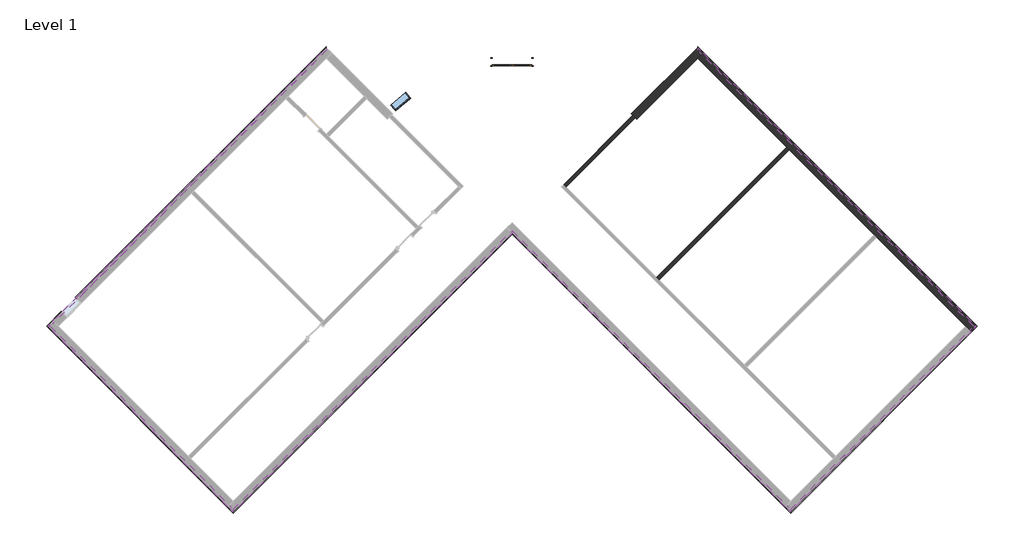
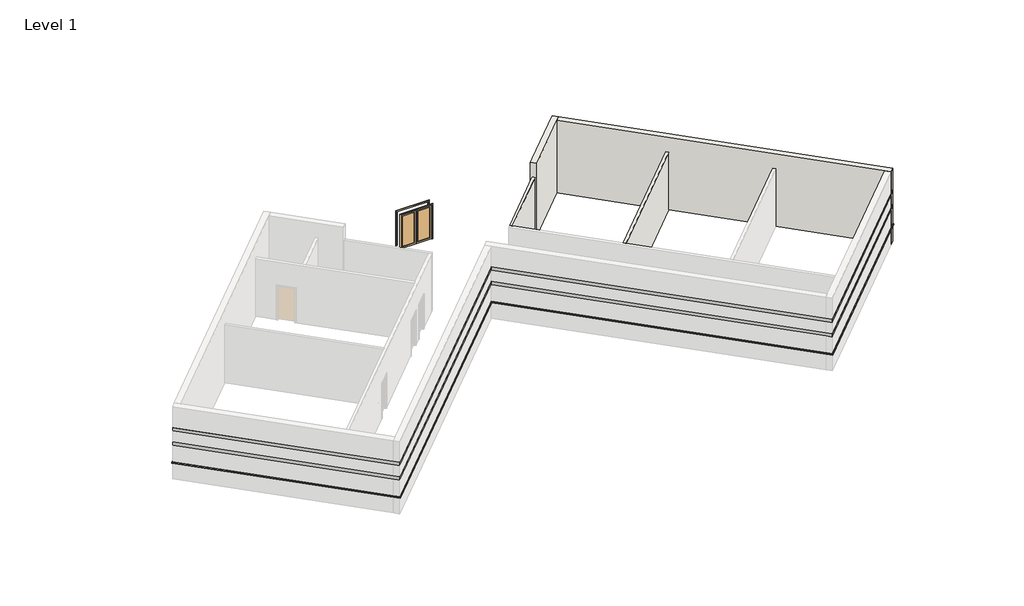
# One storey, part 2 of 2: 18 proxies, 4 walls, 1 door, 1 window.
"""IFC4 building model written with IfcOpenShell, lengths in millimetres."""

from ifc_helpers import new_model, si_unit, point, frame, frame_2d, origin, origin_with_axes, place, context, project, spatial, polyline, circle_curve, trimmed, segment, composite_curve, outline, extrude, faceted_brep, transform, mapped, element, save
from ifc_brep_helpers import plane_surface, cylinder_surface, revolved_surface, advanced_brep
from components import door_9e30bd7d, window_15c49d37

model = new_model("IFC4")

# Units and contexts
model_context = context("Model", 3, world=origin())
ifc_project = project(units=[si_unit("LENGTHUNIT", "METRE", prefix="MILLI")], contexts=[model_context])

# Site, building, storey
site = spatial("IfcSite", under=ifc_project)
building = spatial("IfcBuilding", under=site)
storey = spatial("IfcBuildingStorey", under=building, Name="Level 1", Elevation=0.0)

# Proxies
placement = place(None, origin())
element("IfcBuildingElementProxy", 1, Name="Wall Sweeps", at=placement, inside=storey, context=model_context, shape_type="Brep", body=[
    faceted_brep([(5753.0175119, 11443.3655905, 1085.85), (5753.0175119, 11573.5793042, 1085.85), (5753.0175119, 11622.9707129, 1041.4), (5753.0175119, 11622.9707129, 1016.0), (5753.0175119, 11443.3655905, 1016.0), (18554.3726125, -1357.9895101, 1085.85), (18554.3726125, -1357.9895101, 1016.0), (18733.9777349, -1357.9895101, 1016.0), (18733.9777349, -1357.9895101, 1041.4), (18684.5863263, -1357.9895101, 1085.85), (5937.1127624, 11259.27034, 1085.85), (5937.1127624, 11259.27034, 1016.0)], [[[0, 1, 2, 3, 4]], [[5, 6, 7, 8, 9]], [[1, 0, 10, 5, 9]], [[2, 1, 9, 8]], [[3, 2, 8, 7]], [[4, 3, 7, 6, 11]], [[0, 4, 11, 6, 5, 10]]]),
])
element("IfcBuildingElementProxy", 2, Name="Wall Sweeps", at=placement, inside=storey, context=model_context, shape_type="Brep", body=[
    faceted_brep([(5753.0175119, 11573.5793042, 2336.8), (5753.0175119, 11573.5793042, 2133.6), (5753.0175119, 11443.3655905, 2133.6), (5753.0175119, 11443.3655905, 2336.8), (18684.5863263, -1357.9895101, 2336.8), (18554.3726125, -1357.9895101, 2336.8), (18554.3726125, -1357.9895101, 2133.6), (18684.5863263, -1357.9895101, 2133.6), (6002.2196193, 11324.3771969, 2336.8), (6002.2196193, 11324.3771969, 2133.6), (5937.1127624, 11259.27034, 2133.6), (5937.1127624, 11259.27034, 2336.8)], [[[0, 1, 2, 3]], [[4, 5, 6, 7]], [[1, 0, 8, 4, 7, 9]], [[2, 1, 9, 7, 6, 10]], [[3, 2, 10, 6, 5, 11]], [[0, 3, 11, 5, 4, 8]]]),
])
element("IfcBuildingElementProxy", 3, Name="Wall Sweeps", at=placement, inside=storey, context=model_context, shape_type="Brep", body=[
    faceted_brep([(5753.0175119, 11573.5793042, 3251.2), (5753.0175119, 11573.5793042, 3048.0), (5753.0175119, 11443.3655905, 3048.0), (5753.0175119, 11443.3655905, 3251.2), (18684.5863263, -1357.9895101, 3251.2), (18554.3726125, -1357.9895101, 3251.2), (18554.3726125, -1357.9895101, 3048.0), (18684.5863263, -1357.9895101, 3048.0), (6002.2196193, 11324.3771969, 3251.2), (6002.2196193, 11324.3771969, 3048.0), (5937.1127624, 11259.27034, 3048.0), (5937.1127624, 11259.27034, 3251.2)], [[[0, 1, 2, 3]], [[4, 5, 6, 7]], [[1, 0, 8, 4, 7, 9]], [[2, 1, 9, 7, 6, 10]], [[3, 2, 10, 6, 5, 11]], [[0, 3, 11, 5, 4, 8]]]),
])
element("IfcBuildingElementProxy", 4, Name="Wall Sweeps", at=placement, inside=storey, context=model_context, shape_type="Brep", body=[
    faceted_brep([(18554.3726125, -1357.9895101, 1085.85), (18684.5863263, -1357.9895101, 1085.85), (18733.9777349, -1357.9895101, 1041.4), (18733.9777349, -1357.9895101, 1016.0), (18554.3726125, -1357.9895101, 1016.0), (10063.54045, -9848.8216726, 1085.85), (10063.54045, -9848.8216726, 1016.0), (10063.54045, -10028.426795, 1016.0), (10063.54045, -10028.426795, 1041.4), (10063.54045, -9979.0353863, 1085.85), (18370.277362, -1542.0847606, 1085.85), (18370.277362, -1542.0847606, 1016.0)], [[[0, 1, 2, 3, 4]], [[5, 6, 7, 8, 9]], [[1, 0, 10, 5, 9]], [[2, 1, 9, 8]], [[3, 2, 8, 7]], [[4, 3, 7, 6, 11]], [[0, 4, 11, 6, 5, 10]]]),
])
element("IfcBuildingElementProxy", 5, Name="Wall Sweeps", at=placement, inside=storey, context=model_context, shape_type="Brep", body=[
    faceted_brep([(18684.5863263, -1357.9895101, 2336.8), (18684.5863263, -1357.9895101, 2133.6), (18554.3726125, -1357.9895101, 2133.6), (18554.3726125, -1357.9895101, 2336.8), (10063.54045, -9979.0353863, 2336.8), (10063.54045, -9848.8216726, 2336.8), (10063.54045, -9848.8216726, 2133.6), (10063.54045, -9979.0353863, 2133.6), (18435.3842189, -1607.1916175, 2336.8), (18435.3842189, -1607.1916175, 2133.6), (18370.277362, -1542.0847606, 2133.6), (18370.277362, -1542.0847606, 2336.8)], [[[0, 1, 2, 3]], [[4, 5, 6, 7]], [[1, 0, 8, 4, 7, 9]], [[2, 1, 9, 7, 6, 10]], [[3, 2, 10, 6, 5, 11]], [[0, 3, 11, 5, 4, 8]]]),
])
element("IfcBuildingElementProxy", 6, Name="Wall Sweeps", at=placement, inside=storey, context=model_context, shape_type="Brep", body=[
    faceted_brep([(18684.5863263, -1357.9895101, 3251.2), (18684.5863263, -1357.9895101, 3048.0), (18554.3726125, -1357.9895101, 3048.0), (18554.3726125, -1357.9895101, 3251.2), (10063.54045, -9979.0353863, 3251.2), (10063.54045, -9848.8216726, 3251.2), (10063.54045, -9848.8216726, 3048.0), (10063.54045, -9979.0353863, 3048.0), (18435.3842189, -1607.1916175, 3251.2), (18435.3842189, -1607.1916175, 3048.0), (18370.277362, -1542.0847606, 3048.0), (18370.277362, -1542.0847606, 3251.2)], [[[0, 1, 2, 3]], [[4, 5, 6, 7]], [[1, 0, 8, 4, 7, 9]], [[2, 1, 9, 7, 6, 10]], [[3, 2, 10, 6, 5, 11]], [[0, 3, 11, 5, 4, 8]]]),
])
element("IfcBuildingElementProxy", 7, Name="Wall Sweeps", at=placement, inside=storey, context=model_context, shape_type="Brep", body=[
    faceted_brep([(10063.54045, -9848.8216726, 1085.85), (10063.54045, -9979.0353863, 1085.85), (10063.54045, -10028.426795, 1041.4), (10063.54045, -10028.426795, 1016.0), (10063.54045, -9848.8216726, 1016.0), (-2868.0283643, 3082.7471418, 1085.85), (-2868.0283643, 3082.7471418, 1016.0), (-2868.0283643, 2903.1420194, 1016.0), (-2868.0283643, 2903.1420194, 1041.4), (-2868.0283643, 2952.533428, 1085.85), (9879.4451996, -9664.7264221, 1085.85), (9879.4451996, -9664.7264221, 1016.0)], [[[0, 1, 2, 3, 4]], [[5, 6, 7, 8, 9]], [[1, 0, 10, 5, 9]], [[2, 1, 9, 8]], [[3, 2, 8, 7]], [[4, 3, 7, 6, 11]], [[0, 4, 11, 6, 5, 10]]]),
])
element("IfcBuildingElementProxy", 8, Name="Wall Sweeps", at=placement, inside=storey, context=model_context, shape_type="Brep", body=[
    faceted_brep([(10063.54045, -9979.0353863, 2336.8), (10063.54045, -9979.0353863, 2133.6), (10063.54045, -9848.8216726, 2133.6), (10063.54045, -9848.8216726, 2336.8), (-2868.0283643, 2952.533428, 2336.8), (-2868.0283643, 3082.7471418, 2336.8), (-2868.0283643, 3082.7471418, 2133.6), (-2868.0283643, 2952.533428, 2133.6), (9814.3383427, -9729.833279, 2336.8), (9814.3383427, -9729.833279, 2133.6), (9879.4451996, -9664.7264221, 2133.6), (9879.4451996, -9664.7264221, 2336.8)], [[[0, 1, 2, 3]], [[4, 5, 6, 7]], [[1, 0, 8, 4, 7, 9]], [[2, 1, 9, 7, 6, 10]], [[3, 2, 10, 6, 5, 11]], [[0, 3, 11, 5, 4, 8]]]),
])
element("IfcBuildingElementProxy", 9, Name="Wall Sweeps", at=placement, inside=storey, context=model_context, shape_type="Brep", body=[
    faceted_brep([(10063.54045, -9979.0353863, 3251.2), (10063.54045, -9979.0353863, 3048.0), (10063.54045, -9848.8216726, 3048.0), (10063.54045, -9848.8216726, 3251.2), (-2868.0283643, 2952.533428, 3251.2), (-2868.0283643, 3082.7471418, 3251.2), (-2868.0283643, 3082.7471418, 3048.0), (-2868.0283643, 2952.533428, 3048.0), (9814.3383427, -9729.833279, 3251.2), (9814.3383427, -9729.833279, 3048.0), (9879.4451996, -9664.7264221, 3048.0), (9879.4451996, -9664.7264221, 3251.2)], [[[0, 1, 2, 3]], [[4, 5, 6, 7]], [[1, 0, 8, 4, 7, 9]], [[2, 1, 9, 7, 6, 10]], [[3, 2, 10, 6, 5, 11]], [[0, 3, 11, 5, 4, 8]]]),
])
element("IfcBuildingElementProxy", 10, Name="Wall Sweeps", at=placement, inside=storey, context=model_context, shape_type="Brep", body=[
    faceted_brep([(-2868.0283643, 3082.7471418, 1085.85), (-2868.0283643, 2952.533428, 1085.85), (-2868.0283643, 2903.1420194, 1041.4), (-2868.0283643, 2903.1420194, 1016.0), (-2868.0283643, 3082.7471418, 1016.0), (-15799.5971786, -9848.8216726, 1085.85), (-15799.5971786, -9848.8216726, 1016.0), (-15799.5971786, -10028.426795, 1016.0), (-15799.5971786, -10028.426795, 1041.4), (-15799.5971786, -9979.0353863, 1085.85), (-2933.1352212, 3017.6402849, 1085.85), (-2933.1352212, 3017.6402849, 1016.0)], [[[0, 1, 2, 3, 4]], [[5, 6, 7, 8, 9]], [[1, 0, 10, 5, 9]], [[2, 1, 9, 8]], [[3, 2, 8, 7]], [[4, 3, 7, 6, 11]], [[0, 4, 11, 6, 5, 10]]]),
])
element("IfcBuildingElementProxy", 11, Name="Wall Sweeps", at=placement, inside=storey, context=model_context, shape_type="Brep", body=[
    faceted_brep([(-2868.0283643, 2952.533428, 2336.8), (-2868.0283643, 2952.533428, 2133.6), (-2868.0283643, 3082.7471418, 2133.6), (-2868.0283643, 3082.7471418, 2336.8), (-15799.5971786, -9979.0353863, 2336.8), (-15799.5971786, -9848.8216726, 2336.8), (-15799.5971786, -9848.8216726, 2133.6), (-15799.5971786, -9979.0353863, 2133.6), (-2933.1352212, 3017.6402849, 2133.6), (-2933.1352212, 3017.6402849, 2336.8)], [[[0, 1, 2, 3]], [[4, 5, 6, 7]], [[1, 0, 4, 7]], [[2, 1, 7, 6, 8]], [[3, 2, 8, 6, 5, 9]], [[0, 3, 9, 5, 4]]]),
])
element("IfcBuildingElementProxy", 12, Name="Wall Sweeps", at=placement, inside=storey, context=model_context, shape_type="Brep", body=[
    faceted_brep([(-2868.0283643, 2952.533428, 3251.2), (-2868.0283643, 2952.533428, 3048.0), (-2868.0283643, 3082.7471418, 3048.0), (-2868.0283643, 3082.7471418, 3251.2), (-15799.5971786, -9979.0353863, 3251.2), (-15799.5971786, -9848.8216726, 3251.2), (-15799.5971786, -9848.8216726, 3048.0), (-15799.5971786, -9979.0353863, 3048.0), (-2933.1352212, 3017.6402849, 3048.0), (-2933.1352212, 3017.6402849, 3251.2)], [[[0, 1, 2, 3]], [[4, 5, 6, 7]], [[1, 0, 4, 7]], [[2, 1, 7, 6, 8]], [[3, 2, 8, 6, 5, 9]], [[0, 3, 9, 5, 4]]]),
])
element("IfcBuildingElementProxy", 13, Name="Wall Sweeps", at=placement, inside=storey, context=model_context, shape_type="Brep", body=[
    faceted_brep([(-15799.5971786, -9848.8216726, 1085.85), (-15799.5971786, -9979.0353863, 1085.85), (-15799.5971786, -10028.426795, 1041.4), (-15799.5971786, -10028.426795, 1016.0), (-15799.5971786, -9848.8216726, 1016.0), (-24290.4293411, -1357.9895101, 1085.85), (-24290.4293411, -1357.9895101, 1016.0), (-24470.0344635, -1357.9895101, 1016.0), (-24470.0344635, -1357.9895101, 1041.4), (-24420.6430549, -1357.9895101, 1085.85), (-15983.6924291, -9664.7264221, 1085.85), (-15983.6924291, -9664.7264221, 1016.0)], [[[0, 1, 2, 3, 4]], [[5, 6, 7, 8, 9]], [[1, 0, 10, 5, 9]], [[2, 1, 9, 8]], [[3, 2, 8, 7]], [[4, 3, 7, 6, 11]], [[0, 4, 11, 6, 5, 10]]]),
])
element("IfcBuildingElementProxy", 14, Name="Wall Sweeps", at=placement, inside=storey, context=model_context, shape_type="Brep", body=[
    faceted_brep([(-15799.5971786, -9979.0353863, 2336.8), (-15799.5971786, -9979.0353863, 2133.6), (-15799.5971786, -9848.8216726, 2133.6), (-15799.5971786, -9848.8216726, 2336.8), (-24420.6430549, -1357.9895101, 2336.8), (-24290.4293411, -1357.9895101, 2336.8), (-24290.4293411, -1357.9895101, 2133.6), (-24420.6430549, -1357.9895101, 2133.6), (-16048.799286, -9729.833279, 2336.8), (-16048.799286, -9729.833279, 2133.6), (-15983.6924291, -9664.7264221, 2133.6), (-15983.6924291, -9664.7264221, 2336.8)], [[[0, 1, 2, 3]], [[4, 5, 6, 7]], [[1, 0, 8, 4, 7, 9]], [[2, 1, 9, 7, 6, 10]], [[3, 2, 10, 6, 5, 11]], [[0, 3, 11, 5, 4, 8]]]),
])
element("IfcBuildingElementProxy", 15, Name="Wall Sweeps", at=placement, inside=storey, context=model_context, shape_type="Brep", body=[
    faceted_brep([(-15799.5971786, -9979.0353863, 3251.2), (-15799.5971786, -9979.0353863, 3048.0), (-15799.5971786, -9848.8216726, 3048.0), (-15799.5971786, -9848.8216726, 3251.2), (-24420.6430549, -1357.9895101, 3251.2), (-24290.4293411, -1357.9895101, 3251.2), (-24290.4293411, -1357.9895101, 3048.0), (-24420.6430549, -1357.9895101, 3048.0), (-16048.799286, -9729.833279, 3251.2), (-16048.799286, -9729.833279, 3048.0), (-15983.6924291, -9664.7264221, 3048.0), (-15983.6924291, -9664.7264221, 3251.2)], [[[0, 1, 2, 3]], [[4, 5, 6, 7]], [[1, 0, 8, 4, 7, 9]], [[2, 1, 9, 7, 6, 10]], [[3, 2, 10, 6, 5, 11]], [[0, 3, 11, 5, 4, 8]]]),
])
element("IfcBuildingElementProxy", 16, Name="Wall Sweeps", at=placement, inside=storey, context=model_context, shape_type="Brep", body=[
    faceted_brep([(-24290.4293411, -1357.9895101, 1085.85), (-24420.6430549, -1357.9895101, 1085.85), (-24470.0344635, -1357.9895101, 1041.4), (-24470.0344635, -1357.9895101, 1016.0), (-24290.4293411, -1357.9895101, 1016.0), (-23692.119777, -759.679946, 1085.85), (-23692.119777, -759.679946, 1016.0), (-23757.2266339, -694.5730891, 1016.0), (-23781.9223383, -669.8773848, 1016.0), (-23781.9223383, -669.8773848, 1041.4), (-23757.2266339, -694.5730891, 1085.85), (-24106.3340906, -1173.8942596, 1085.85), (-24106.3340906, -1173.8942596, 1016.0)], [[[0, 1, 2, 3, 4]], [[5, 6, 7, 8, 9, 10]], [[1, 0, 11, 5, 10]], [[2, 1, 10, 9]], [[3, 2, 9, 8]], [[4, 3, 8, 7, 6, 12]], [[0, 4, 12, 6, 5, 11]]]),
    faceted_brep([(-23045.5413363, -113.1015053, 1085.85), (-23110.6481932, -47.9946484, 1085.85), (-23135.3438975, -23.2989441, 1041.4), (-23135.3438975, -23.2989441, 1016.0), (-23110.6481932, -47.9946484, 1016.0), (-23045.5413363, -113.1015053, 1016.0), (-11489.0742405, 11443.3655905, 1085.85), (-11489.0742405, 11443.3655905, 1016.0), (-11489.0742405, 11622.9707129, 1016.0), (-11489.0742405, 11622.9707129, 1041.4), (-11489.0742405, 11573.5793042, 1085.85)], [[[0, 1, 2, 3, 4, 5]], [[6, 7, 8, 9, 10]], [[1, 0, 6, 10]], [[2, 1, 10, 9]], [[3, 2, 9, 8]], [[5, 4, 3, 8, 7]], [[0, 5, 7, 6]]]),
])
element("IfcBuildingElementProxy", 17, Name="Wall Sweeps", at=placement, inside=storey, context=model_context, shape_type="Brep", body=[
    faceted_brep([(-24420.6430549, -1357.9895101, 2336.8), (-24420.6430549, -1357.9895101, 2133.6), (-24290.4293411, -1357.9895101, 2133.6), (-24290.4293411, -1357.9895101, 2336.8), (-23757.2266339, -694.5730891, 2336.8), (-23692.119777, -759.679946, 2336.8), (-23692.119777, -759.679946, 2133.6), (-23757.2266339, -694.5730891, 2133.6), (-24171.4409475, -1108.7874027, 2336.8), (-24171.4409475, -1108.7874027, 2133.6), (-24106.3340906, -1173.8942596, 2133.6), (-24106.3340906, -1173.8942596, 2336.8)], [[[0, 1, 2, 3]], [[4, 5, 6, 7]], [[1, 0, 8, 4, 7, 9]], [[2, 1, 9, 7, 6, 10]], [[3, 2, 10, 6, 5, 11]], [[0, 3, 11, 5, 4, 8]]]),
    faceted_brep([(-23110.6481932, -47.9946484, 2336.8), (-23110.6481932, -47.9946484, 2133.6), (-23045.5413363, -113.1015053, 2133.6), (-23045.5413363, -113.1015053, 2336.8), (-11489.0742405, 11573.5793042, 2336.8), (-11489.0742405, 11443.3655905, 2336.8), (-11489.0742405, 11443.3655905, 2133.6), (-11489.0742405, 11573.5793042, 2133.6)], [[[0, 1, 2, 3]], [[4, 5, 6, 7]], [[1, 0, 4, 7]], [[2, 1, 7, 6]], [[3, 2, 6, 5]], [[0, 3, 5, 4]]]),
])
element("IfcBuildingElementProxy", 18, Name="Wall Sweeps", at=placement, inside=storey, context=model_context, shape_type="Brep", body=[
    faceted_brep([(-24420.6430549, -1357.9895101, 3251.2), (-24420.6430549, -1357.9895101, 3048.0), (-24290.4293411, -1357.9895101, 3048.0), (-24290.4293411, -1357.9895101, 3251.2), (-11489.0742405, 11573.5793042, 3251.2), (-11489.0742405, 11443.3655905, 3251.2), (-11489.0742405, 11443.3655905, 3048.0), (-11489.0742405, 11573.5793042, 3048.0), (-24171.4409475, -1108.7874027, 3251.2), (-24171.4409475, -1108.7874027, 3048.0), (-24106.3340906, -1173.8942596, 3048.0), (-24106.3340906, -1173.8942596, 3251.2)], [[[0, 1, 2, 3]], [[4, 5, 6, 7]], [[1, 0, 8, 4, 7, 9]], [[2, 1, 9, 7, 6, 10]], [[3, 2, 10, 6, 5, 11]], [[0, 3, 11, 5, 4, 8]]]),
])

# Door
door_shape = door_9e30bd7d(model_context)
element("IfcDoor", 19, ObjectType="Door-Double-Glass : 72\" x 84\"", at=placement, inside=storey, context=model_context, shape_type="MappedRepresentation", body=[
    mapped(door_shape, transform((-2868.7605421, 10907.9529704, 0.0), x_axis=(-0.9999999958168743, -9.146721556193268e-05, 0.0), y_axis=(9.146721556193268e-05, -0.9999999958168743, 0.0), z_axis=(0.0, 0.0, 1.0))),
])

# Walls
element("IfcWall", 20, ObjectType="Exterior - Split Face and CMU on Mtl. Stud", at=placement, inside=storey, context=model_context, shape_type="AdvancedBrep", body=[
    advanced_brep(
    [(2921.9555443, 8244.1131219, 0.0), (5753.0175119, 11075.1750895, 0.0), (6002.2196193, 11324.3771969, 0.0), (6002.2196193, 11324.3771969, 1016.0), (5937.1127624, 11259.27034, 1016.0), (5937.1127624, 11259.27034, 1085.85), (6002.2196193, 11324.3771969, 1085.85), (6002.2196193, 11324.3771969, 2133.6), (5937.1127624, 11259.27034, 2133.6), (5937.1127624, 11259.27034, 2336.8), (6002.2196193, 11324.3771969, 2336.8), (6002.2196193, 11324.3771969, 3048.0), (5937.1127624, 11259.27034, 3048.0), (5937.1127624, 11259.27034, 3251.2), (6002.2196193, 11324.3771969, 3251.2), (6002.2196193, 11324.3771969, 4572.0), (5753.0175119, 11075.1750895, 4572.0), (2921.9555443, 8244.1131219, 4572.0), (2677.2250436, 8497.7868359, 4572.0), (2926.4294954, 8746.9912878, 4572.0), (5753.0175119, 11573.5793042, 4572.0), (5753.0175119, 11573.5793042, 3251.2), (2926.4294954, 8746.9912878, 3251.2), (2861.3220456, 8681.8838379, 3251.2), (2861.3220456, 8681.8838379, 3048.0), (2926.4294954, 8746.9912878, 3048.0), (5753.0175119, 11573.5793042, 3048.0), (5753.0175119, 11573.5793042, 2336.8), (2926.4294954, 8746.9912878, 2336.8), (2861.3220456, 8681.8838379, 2336.8), (2861.3220456, 8681.8838379, 2133.6), (2926.4294954, 8746.9912878, 2133.6), (5753.0175119, 11573.5793042, 2133.6), (5753.0175119, 11573.5793042, 1085.85), (2926.4294954, 8746.9912878, 1085.85), (2861.3220456, 8681.8838379, 1085.85), (2861.3220456, 8681.8838379, 1016.0), (2926.4294954, 8746.9912878, 1016.0), (5753.0175119, 11573.5793042, 1016.0), (5753.0175119, 11573.5793042, 0.0), (2926.4294954, 8746.9912878, 0.0), (2677.2250436, 8497.7868359, 0.0), (5818.1243688, 11508.4724474, 0.0), (2742.2400511, 8432.5881297, 0.0), (2746.695582, 8428.0638276, 0.0), (2854.7283421, 8316.0840715, 0.0), (5753.0175119, 11443.3655905, 1085.85), (2926.3399919, 8616.6880705, 1085.85), (2926.3399919, 8616.6880705, 1016.0), (5753.0175119, 11443.3655905, 1016.0), (2926.3399919, 8616.6880705, 2133.6), (5753.0175119, 11443.3655905, 2133.6), (2926.3399919, 8616.6880705, 2336.8), (5753.0175119, 11443.3655905, 2336.8), (2926.3399919, 8616.6880705, 3048.0), (5753.0175119, 11443.3655905, 3048.0), (2926.3399919, 8616.6880705, 3251.2), (5753.0175119, 11443.3655905, 3251.2)],
    [
        (0, 1),
        (1, 2),
        (2, 3),
        (3, 4),
        (4, 5),
        (5, 6),
        (6, 7),
        (7, 8),
        (8, 9),
        (9, 10),
        (10, 11),
        (11, 12),
        (12, 13),
        (13, 14),
        (14, 15),
        (15, 16),
        (16, 17),
        (17, 0),
        (18, 19),
        (19, 20),
        (20, 21),
        (21, 22),
        (22, 23),
        (23, 24),
        (24, 25),
        (25, 26),
        (26, 27),
        (27, 28),
        (28, 29),
        (29, 30),
        (30, 31),
        (31, 32),
        (32, 33),
        (33, 34),
        (34, 35),
        (35, 36),
        (36, 37),
        (37, 38),
        (38, 39),
        (39, 40),
        (40, 41),
        (41, 18),
        (15, 20),
        (18, 17, circle_curve(frame((-2868.0283643, 2903.1420194, 4572.0), z_axis=(0.0, 0.0, -1.0), x_axis=(1.0, 0.0, 0.0)), 7877.175)),
        (14, 21),
        (2, 42),
        (42, 39),
        (38, 3),
        (6, 33),
        (32, 7),
        (10, 27),
        (26, 11),
        (41, 43, circle_curve(frame((-2868.0283643, 2903.1420194, 0.0), z_axis=(0.0, 0.0, -1.0), x_axis=(1.0, 0.0, 0.0)), 7877.175)),
        (43, 44, circle_curve(frame((-2868.0283643, 2903.1420194, 0.0), z_axis=(0.0, 0.0, -1.0), x_axis=(1.0, 0.0, 0.0)), 7877.175)),
        (44, 45, circle_curve(frame((-2868.0283643, 2903.1420194, 0.0), z_axis=(0.0, 0.0, -1.0), x_axis=(1.0, 0.0, 0.0)), 7877.175)),
        (45, 0, circle_curve(frame((-2868.0283643, 2903.1420194, 0.0), z_axis=(0.0, 0.0, -1.0), x_axis=(1.0, 0.0, 0.0)), 7877.175)),
        (43, 42),
        (46, 47),
        (47, 35, circle_curve(frame((-2868.0283643, 2903.1420194, 1085.85), z_axis=(0.0, 0.0, 1.0), x_axis=(-0.7040995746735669, 0.7101012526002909, 0.0)), 8137.525)),
        (5, 46),
        (48, 49),
        (49, 4),
        (36, 48, circle_curve(frame((-2868.0283643, 2903.1420194, 1016.0), z_axis=(0.0, 0.0, -1.0), x_axis=(-0.7040995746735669, 0.7101012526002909, 0.0)), 8137.525)),
        (47, 48),
        (46, 49),
        (50, 51),
        (51, 8),
        (30, 50, circle_curve(frame((-2868.0283643, 2903.1420194, 2133.6), z_axis=(0.0, 0.0, -1.0), x_axis=(-0.7040995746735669, 0.7101012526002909, 0.0)), 8137.525)),
        (52, 50),
        (29, 52, circle_curve(frame((-2868.0283643, 2903.1420194, 2336.8), z_axis=(0.0, 0.0, -1.0), x_axis=(-0.7040995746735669, 0.7101012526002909, 0.0)), 8137.525)),
        (53, 52),
        (9, 53),
        (53, 51),
        (54, 55),
        (55, 12),
        (24, 54, circle_curve(frame((-2868.0283643, 2903.1420194, 3048.0), z_axis=(0.0, 0.0, -1.0), x_axis=(-0.7040995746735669, 0.7101012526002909, 0.0)), 8137.525)),
        (56, 54),
        (23, 56, circle_curve(frame((-2868.0283643, 2903.1420194, 3251.2), z_axis=(0.0, 0.0, -1.0), x_axis=(-0.7040995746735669, 0.7101012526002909, 0.0)), 8137.525)),
        (57, 56),
        (13, 57),
        (57, 55),
    ],
    [
        plane_surface(frame((2984.8535626, 8307.0111402, 0.0), z_axis=(0.707106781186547, -0.7071067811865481, 0.0), x_axis=(0.7071067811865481, 0.707106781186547, 0.0))),
        plane_surface(frame((2735.6514552, 8556.2132476, 0.0), z_axis=(-0.707106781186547, 0.7071067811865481, 0.0), x_axis=(-0.7071067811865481, -0.707106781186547, 0.0))),
        plane_surface(frame((5877.6185656, 11199.7761432, 4572.0), z_axis=(0.0, 0.0, 1.0), x_axis=(-0.707106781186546, 0.7071067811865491, 0.0))),
        plane_surface(frame((5753.0175119, 11573.5793042, 0.0), z_axis=(0.7071067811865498, 0.7071067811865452, 0.0), x_axis=(-0.7071067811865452, 0.7071067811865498, 0.0))),
        revolved_surface(polyline([(5009.146635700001, 2903.1420194, 0.0), (5009.146635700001, 2903.1420194, 4572.0)]), (-2868.0283643, 2903.1420194, 0.0), (0.0, 0.0, -1.0)),
        plane_surface(frame((3050.2065213, 8372.3640989, 0.0), z_axis=(0.0, 0.0, -1.0000000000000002), x_axis=(-0.7071067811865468, 0.7071067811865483, 0.0))),
        plane_surface(frame((0.0, 0.0, 0.0), z_axis=(0.0, 0.0, -1.0), x_axis=(1.0, 0.0, 0.0))),
        plane_surface(frame((-2868.0283643, 2903.1420194, 1085.85), z_axis=(0.0, 0.0, -1.0), x_axis=(-0.7040995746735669, 0.7101012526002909, 0.0))),
        plane_surface(frame((-2868.0283643, 2903.1420194, 1016.0), z_axis=(0.0, 0.0, 1.0), x_axis=(-0.7040995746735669, 0.7101012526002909, 0.0))),
        cylinder_surface(frame((-2868.0283643, 2903.1420194, 1016.0), z_axis=(0.0, 0.0, -1.0), x_axis=(-0.7040995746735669, 0.7101012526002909, 0.0)), 8137.525),
        plane_surface(frame((2926.3399919, 8616.6880705, 1016.0), z_axis=(-0.7071067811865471, 0.707106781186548, 0.0), x_axis=(0.707106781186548, 0.7071067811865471, 0.0))),
        plane_surface(frame((5753.0175119, 11443.3655905, 1016.0), z_axis=(0.70710678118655, 0.7071067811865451, 0.0), x_axis=(0.7071067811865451, -0.70710678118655, 0.0))),
        plane_surface(frame((-2868.0283643, 2903.1420194, 2133.6), z_axis=(0.0, 0.0, 1.0), x_axis=(-0.7040995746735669, 0.7101012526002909, 0.0))),
        cylinder_surface(frame((-2868.0283643, 2903.1420194, 2133.6), z_axis=(0.0, 0.0, -1.0), x_axis=(-0.7040995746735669, 0.7101012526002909, 0.0)), 8137.525),
        plane_surface(frame((-2868.0283643, 2903.1420194, 2336.8), z_axis=(0.0, 0.0, -1.0), x_axis=(-0.7040995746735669, 0.7101012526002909, 0.0))),
        plane_surface(frame((2926.3399919, 8616.6880705, 2133.6), z_axis=(-0.7071067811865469, 0.7071067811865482, 0.0), x_axis=(0.7071067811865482, 0.7071067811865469, 0.0))),
        plane_surface(frame((5753.0175119, 11443.3655905, 2133.6), z_axis=(0.7071067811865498, 0.7071067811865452, 0.0), x_axis=(0.7071067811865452, -0.7071067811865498, 0.0))),
        plane_surface(frame((-2868.0283643, 2903.1420194, 3048.0), z_axis=(0.0, 0.0, 1.0), x_axis=(-0.7040995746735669, 0.7101012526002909, 0.0))),
        cylinder_surface(frame((-2868.0283643, 2903.1420194, 3048.0), z_axis=(0.0, 0.0, -1.0), x_axis=(-0.7040995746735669, 0.7101012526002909, 0.0)), 8137.525),
        plane_surface(frame((-2868.0283643, 2903.1420194, 3251.2), z_axis=(0.0, 0.0, -1.0), x_axis=(-0.7040995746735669, 0.7101012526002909, 0.0))),
        plane_surface(frame((2926.3399919, 8616.6880705, 3048.0), z_axis=(-0.7071067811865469, 0.7071067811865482, 0.0), x_axis=(0.7071067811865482, 0.7071067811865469, 0.0))),
        plane_surface(frame((5753.0175119, 11443.3655905, 3048.0), z_axis=(0.7071067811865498, 0.7071067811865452, 0.0), x_axis=(0.7071067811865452, -0.7071067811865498, 0.0))),
    ],
    [
        (0, [[1, 2, 3, 4, 5, 6, 7, 8, 9, 10, 11, 12, 13, 14, 15, 16, 17, 18]]),
        (1, [[19, 20, 21, 22, 23, 24, 25, 26, 27, 28, 29, 30, 31, 32, 33, 34, 35, 36, 37, 38, 39, 40, 41, 42]]),
        (2, [[-17, -16, 43, -20, -19, 44]]),
        (3, [[-43, -15, 45, -21]]),
        (3, [[46, 47, -39, 48, -3]]),
        (3, [[49, -33, 50, -7]]),
        (3, [[51, -27, 52, -11]]),
        (4, [[-44, -42, 53, 54, 55, 56, -18]]),
        (5, [[-2, -1, -56, -55, -54, 57, -46]]),
        (6, [[-53, -41, -40, -47, -57]]),
        (7, [[58, 59, -35, -34, -49, -6, 60]]),
        (8, [[61, 62, -4, -48, -38, -37, 63]]),
        (9, [[64, -63, -36, -59]]),
        (10, [[-58, 65, -61, -64]]),
        (11, [[-65, -60, -5, -62]]),
        (12, [[66, 67, -8, -50, -32, -31, 68]]),
        (13, [[69, -68, -30, 70]]),
        (14, [[71, -70, -29, -28, -51, -10, 72]]),
        (15, [[-66, -69, -71, 73]]),
        (16, [[-73, -72, -9, -67]]),
        (17, [[74, 75, -12, -52, -26, -25, 76]]),
        (18, [[77, -76, -24, 78]]),
        (19, [[79, -78, -23, -22, -45, -14, 80]]),
        (20, [[-74, -77, -79, 81]]),
        (21, [[-81, -80, -13, -75]]),
    ],
),
])
element("IfcWall", 21, ObjectType="Exterior - Split Face and CMU on Mtl. Stud", at=placement, inside=storey, context=model_context, shape_type="Brep", body=[
    faceted_brep([(5753.0175119, 11075.1750895, 0.0), (9883.9353276, 6944.2572738, 0.0), (9993.9434651, 6834.2491364, 0.0), (13945.2561584, 2882.9364431, 0.0), (14055.2642958, 2772.9283056, 0.0), (18186.1821115, -1357.9895101, 0.0), (18435.3842189, -1607.1916175, 0.0), (18435.3842189, -1607.1916175, 1016.0), (18370.277362, -1542.0847606, 1016.0), (18370.277362, -1542.0847606, 1085.85), (18435.3842189, -1607.1916175, 1085.85), (18435.3842189, -1607.1916175, 2133.6), (18370.277362, -1542.0847606, 2133.6), (18370.277362, -1542.0847606, 2336.8), (18435.3842189, -1607.1916175, 2336.8), (18435.3842189, -1607.1916175, 3048.0), (18370.277362, -1542.0847606, 3048.0), (18370.277362, -1542.0847606, 3251.2), (18435.3842189, -1607.1916175, 3251.2), (18435.3842189, -1607.1916175, 4572.0), (18186.1821115, -1357.9895101, 4572.0), (5753.0175119, 11075.1750895, 4572.0), (6002.2196193, 11324.3771969, 4572.0), (18684.5863263, -1357.9895101, 4572.0), (18684.5863263, -1357.9895101, 3251.2), (6002.2196193, 11324.3771969, 3251.2), (18684.5863263, -1357.9895101, 0.0), (6002.2196193, 11324.3771969, 0.0), (6002.2196193, 11324.3771969, 1016.0), (18684.5863263, -1357.9895101, 1016.0), (18684.5863263, -1357.9895101, 1085.85), (6002.2196193, 11324.3771969, 1085.85), (6002.2196193, 11324.3771969, 2133.6), (18684.5863263, -1357.9895101, 2133.6), (18684.5863263, -1357.9895101, 2336.8), (6002.2196193, 11324.3771969, 2336.8), (6002.2196193, 11324.3771969, 3048.0), (18684.5863263, -1357.9895101, 3048.0), (18619.4794694, -1423.096367, 0.0), (5937.1127624, 11259.27034, 3251.2), (5937.1127624, 11259.27034, 3048.0), (5937.1127624, 11259.27034, 2336.8), (5937.1127624, 11259.27034, 2133.6), (5937.1127624, 11259.27034, 1085.85), (5937.1127624, 11259.27034, 1016.0), (5937.1127624, 11259.27034, 0.0), (18554.3726125, -1357.9895101, 1085.85), (18554.3726125, -1357.9895101, 1016.0), (18554.3726125, -1357.9895101, 2133.6), (18554.3726125, -1357.9895101, 2336.8), (18554.3726125, -1357.9895101, 3048.0), (18554.3726125, -1357.9895101, 3251.2)], [[[0, 1, 2, 3, 4, 5, 6, 7, 8, 9, 10, 11, 12, 13, 14, 15, 16, 17, 18, 19, 20, 21]], [[22, 23, 24, 25]], [[26, 27, 28, 29]], [[30, 31, 32, 33]], [[34, 35, 36, 37]], [[21, 20, 19, 23, 22]], [[23, 19, 18, 24]], [[6, 38, 26, 29, 7]], [[10, 30, 33, 11]], [[14, 34, 37, 15]], [[0, 21, 22, 25, 39, 40, 36, 35, 41, 42, 32, 31, 43, 44, 28, 27, 45]], [[6, 5, 4, 3, 2, 1, 0, 45, 38]], [[45, 27, 26, 38]], [[9, 46, 43, 31, 30, 10]], [[44, 47, 8, 7, 29, 28]], [[46, 47, 44, 43]], [[47, 46, 9, 8]], [[42, 48, 12, 11, 33, 32]], [[13, 49, 41, 35, 34, 14]], [[49, 48, 42, 41]], [[48, 49, 13, 12]], [[40, 50, 16, 15, 37, 36]], [[17, 51, 39, 25, 24, 18]], [[51, 50, 40, 39]], [[50, 51, 17, 16]]]),
])
element("IfcWall", 22, ObjectType="Interior - 6 1/8\" Partition (2-hr)", at=placement, inside=storey, context=model_context, shape_type="SweptSolid", body=[
    extrude(outline(polyline([(3846.9581502, 907.2800964), (9883.9353276, 6944.2572738), (9993.9434651, 6834.2491364), (3956.9662877, 797.271959), (3846.9581502, 907.2800964)])), origin_with_axes(), (0.0, 0.0, 1.0), 3657.6),
])
element("IfcWall", 23, ObjectType="Interior - 6 1/8\" Partition (2-hr)", at=placement, inside=storey, context=model_context, shape_type="SweptSolid", body=[
    extrude(outline(composite_curve([segment(polyline([(-463.5647879, 5217.8030346), (2746.6957919, 8428.0636143)]), True, "CONTINUOUS"), segment(trimmed(circle_curve(frame_2d((-2868.0283643, 2903.1420194)), 7877.175), [point((2746.6957919, 8428.0636143))], [point((2854.7303749, 8316.0819224))], False, "CARTESIAN"), True, "CONTINUOUS"), segment(polyline([(2854.7303749, 8316.0819224), (-353.5566504, 5107.7948971), (-463.5647879, 5217.8030346)]), True, "CONTINUOUS")], self_intersect=False)), origin_with_axes(), (0.0, 0.0, 1.0), 3657.6),
])

# Window
window_shape = window_15c49d37(model_context)
element("IfcWindow", 24, ObjectType="Fixed : 36\" x 48\"", at=placement, inside=storey, context=model_context, shape_type="MappedRepresentation", body=[
    mapped(window_shape, transform((-8066.2237793, 9037.6928325, 0.0), x_axis=(-0.7659856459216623, -0.6428576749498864, 0.0), y_axis=(0.6428576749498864, -0.7659856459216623, 0.0), z_axis=(0.0, 0.0, 1.0))),
])

save(model, "model.ifc")
